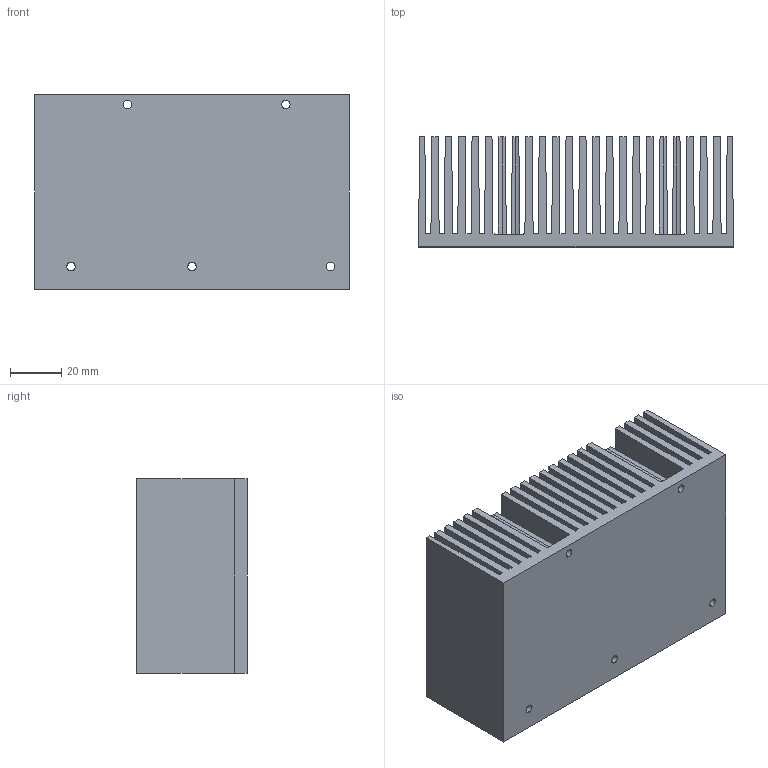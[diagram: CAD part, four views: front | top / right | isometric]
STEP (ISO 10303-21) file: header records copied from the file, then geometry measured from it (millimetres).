
FILE_DESCRIPTION (( 'STEP AP214' ), '1' );
FILE_NAME ('1315322, Heatsink, OEM, CellX.STEP', '2017-05-31T20:34:21', ( '' ), ( '' ), 'SwSTEP 2.0', 'SolidWorks 2016', '' );
FILE_SCHEMA (( 'AUTOMOTIVE_DESIGN' ));
Length unit declared in the file: inch
Products named in the file (2): 1315322,  Heatsink, OEM, CellX
Assembly tree (1 placements, depth 2):
  1315322,  Heatsink, OEM, CellX
    1315322,  Heatsink, OEM, CellX
Bounding box: 123.19 x 43.18 x 76.2 mm (x, y, z)
Volume: 233760 mm3; surface area: 156455.3 mm2
Topology: 1 solids, 1 shells, 140 faces, 414 edges, 276 vertices
Faces by surface type: plane 120, cylinder 20
Entity records: 4722 total; most frequent: CARTESIAN_POINT 864, ORIENTED_EDGE 828, DIRECTION 742, EDGE_CURVE 414, VECTOR 354, LINE 354, VERTEX_POINT 276, AXIS2_PLACEMENT_3D 194
